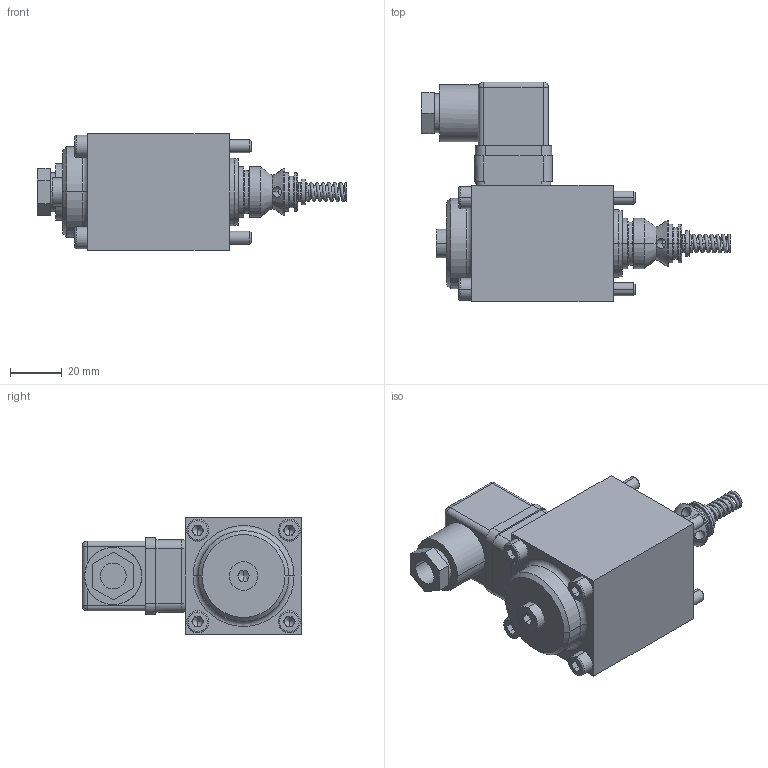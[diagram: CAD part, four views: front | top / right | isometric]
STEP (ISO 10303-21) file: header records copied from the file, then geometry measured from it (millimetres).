
FILE_DESCRIPTION (( 'STEP AP203' ), '1' );
FILE_NAME ('S2206.STEP', '2021-09-01T08:28:56', ( '' ), ( '' ), 'SwSTEP 2.0', 'SolidWorks 2020', '' );
FILE_SCHEMA (( 'CONFIG_CONTROL_DESIGN' ));
Length unit declared in the file: millimetre
Products named in the file (1): S2206
Bounding box: 119.3 x 84.8 x 45 mm (x, y, z)
Volume: 164585.4 mm3; surface area: 26661.1 mm2
Topology: 4 solids, 4 shells, 280 faces, 629 edges, 376 vertices
Faces by surface type: plane 121, cylinder 93, cone 34, torus 22, bspline 10
Entity records: 12466 total; most frequent: CARTESIAN_POINT 6152, DIRECTION 1372, ORIENTED_EDGE 1230, EDGE_CURVE 615, AXIS2_PLACEMENT_3D 529, VERTEX_POINT 376, VECTOR 314, LINE 314
